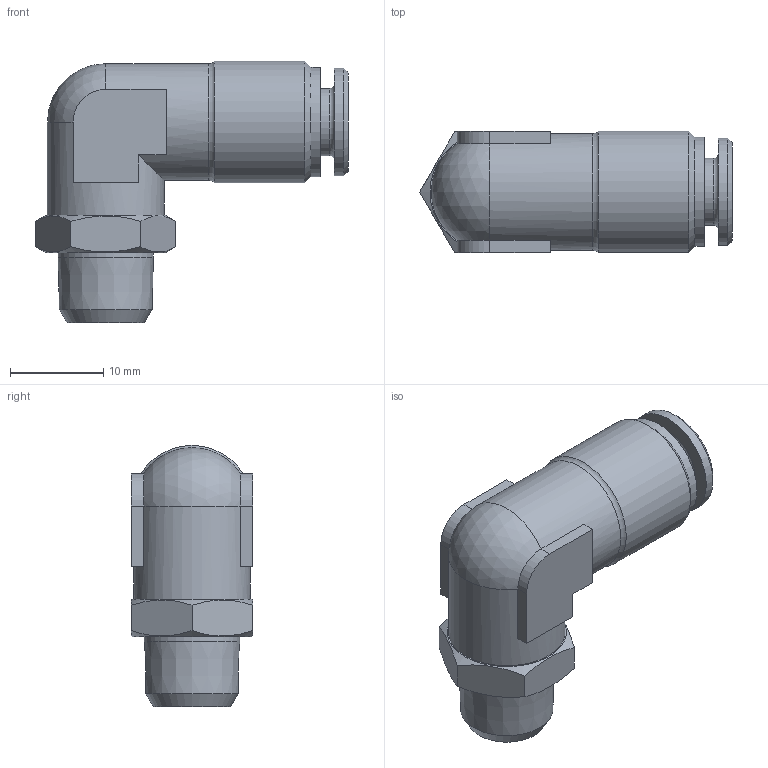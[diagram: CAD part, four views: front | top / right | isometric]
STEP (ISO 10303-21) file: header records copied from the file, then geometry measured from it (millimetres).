
FILE_DESCRIPTION(/* description */ (''),/* implementation_level */ '2;1');
FILE_NAME(/* name */ 'H220610_HDS022K_6_M10X1_08.05.17',/* time_stamp */ '2017-05-08T14:56:31+02:00',/* author */ (''),/* organization */ (''),/* preprocessor_version */ 'ST-DEVELOPER v16.5',/* originating_system */ 'HiCAD 2016 2102.1 Build 498',/* authorisation */ '');
FILE_SCHEMA (('AUTOMOTIVE_DESIGN { 1 0 10303 214 1 1 1 1 }'));
Length unit declared in the file: millimetre
Products named in the file (4): Root; 540102-1; DR6-C_HDX_25.07.16; RIVOLUZIONE_0
Assembly tree (3 placements, depth 2):
  Root
    540102-1
    DR6-C_HDX_25.07.16
    RIVOLUZIONE_0
Bounding box: 33.51 x 13 x 28 mm (x, y, z)
Volume: 4115 mm3; surface area: 4252.2 mm2
Topology: 3 solids, 3 shells, 77 faces, 165 edges, 100 vertices
Faces by surface type: plane 33, cylinder 21, cone 17, torus 5, sphere 1
Full cylindrical faces by diameter (mm): 4 x2, 6 x1, 6.2 x1, 6.3 x1, 7.2 x1, 9 x2, 9.9 x1, 10 x1, 10.1 x2, 10.219 x1, 10.3 x1, 11.5 x1, 11.7 x1, 12.5 x2, 13 x1
Entity records: 3207 total; most frequent: CARTESIAN_POINT 461, DIRECTION 354, PRESENTATION_STYLE_ASSIGNMENT 233, COLOUR_RGB 232, DRAUGHTING_PRE_DEFINED_CURVE_FONT 230, CURVE_STYLE 230, OVER_RIDING_STYLED_ITEM 230, ORIENTED_EDGE 230
